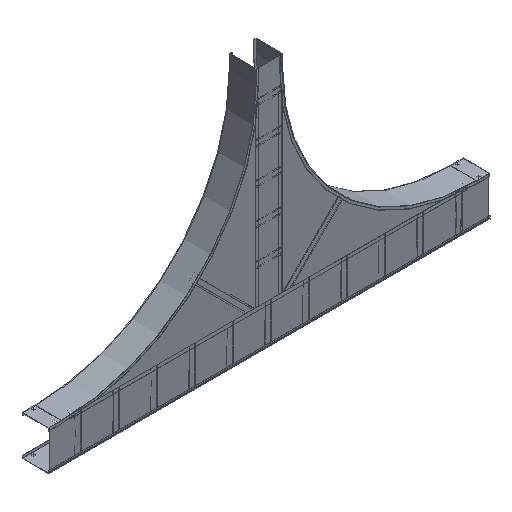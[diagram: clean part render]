
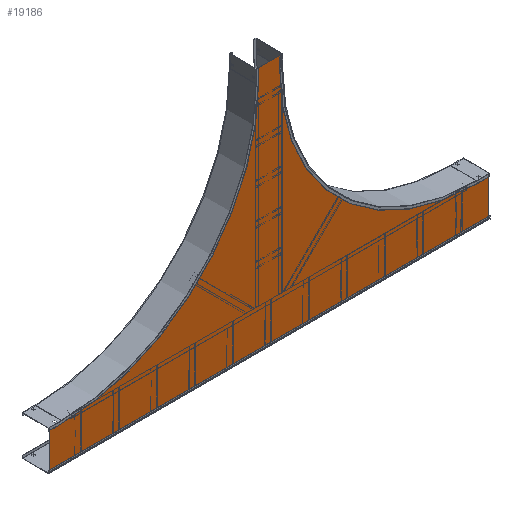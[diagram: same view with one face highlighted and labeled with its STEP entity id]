
A CAD part, isometric view. The second image highlights one B-rep face of the part: STEP entity #19186.
In plain terms, the highlighted planar face has unit normal (0, -1, 0).
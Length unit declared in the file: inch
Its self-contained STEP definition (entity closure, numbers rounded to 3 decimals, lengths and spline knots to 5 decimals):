
#18995=DIRECTION('',(1.,0.,0.));
#18996=VECTOR('',#18995,5.875);
#18997=CARTESIAN_POINT('',(-2.9375,0.,0.));
#18998=LINE('',#18997,#18996);
#18999=DIRECTION('',(0.,0.,-1.));
#19000=VECTOR('',#18999,2.875);
#19001=CARTESIAN_POINT('',(2.9375,0.,0.));
#19002=LINE('',#19001,#19000);
#19003=CARTESIAN_POINT('',(48.,0.,-2.875));
#19004=DIRECTION('',(0.,-1.,0.));
#19005=DIRECTION('',(-1.,0.,0.));
#19006=AXIS2_PLACEMENT_3D('',#19003,#19004,#19005);
#19008=DIRECTION('',(1.,0.,0.));
#19009=VECTOR('',#19008,2.875);
#19010=CARTESIAN_POINT('',(48.,0.,-47.9375));
#19011=LINE('',#19010,#19009);
#19012=DIRECTION('',(0.,0.,-1.));
#19013=VECTOR('',#19012,8.875);
#19014=CARTESIAN_POINT('',(50.875,0.,-47.9375));
#19015=LINE('',#19014,#19013);
#19016=DIRECTION('',(-1.,0.,0.));
#19017=VECTOR('',#19016,101.75);
#19018=CARTESIAN_POINT('',(50.875,0.,-56.8125));
#19019=LINE('',#19018,#19017);
#19020=DIRECTION('',(0.,0.,1.));
#19021=VECTOR('',#19020,8.875);
#19022=CARTESIAN_POINT('',(-50.875,0.,-56.8125));
#19023=LINE('',#19022,#19021);
#19024=DIRECTION('',(1.,0.,0.));
#19025=VECTOR('',#19024,2.875);
#19026=CARTESIAN_POINT('',(-50.875,0.,-47.9375));
#19027=LINE('',#19026,#19025);
#19028=CARTESIAN_POINT('',(-48.,0.,-2.875));
#19029=DIRECTION('',(0.,-1.,0.));
#19030=DIRECTION('',(0.,0.,-1.));
#19031=AXIS2_PLACEMENT_3D('',#19028,#19029,#19030);
#19033=DIRECTION('',(0.,0.,1.));
#19034=VECTOR('',#19033,2.875);
#19035=CARTESIAN_POINT('',(-2.9375,0.,-2.875));
#19036=LINE('',#19035,#19034);
#19119=CARTESIAN_POINT('',(-2.9375,0.,0.));
#19120=CARTESIAN_POINT('',(2.9375,0.,0.));
#19121=VERTEX_POINT('',#19119);
#19122=VERTEX_POINT('',#19120);
#19123=CARTESIAN_POINT('',(2.9375,0.,-2.875));
#19124=VERTEX_POINT('',#19123);
#19125=CARTESIAN_POINT('',(48.,0.,-47.9375));
#19126=VERTEX_POINT('',#19125);
#19127=CARTESIAN_POINT('',(50.875,0.,-47.9375));
#19128=VERTEX_POINT('',#19127);
#19129=CARTESIAN_POINT('',(50.875,0.,-56.8125));
#19130=VERTEX_POINT('',#19129);
#19131=CARTESIAN_POINT('',(-50.875,0.,-56.8125));
#19132=VERTEX_POINT('',#19131);
#19133=CARTESIAN_POINT('',(-50.875,0.,-47.9375));
#19134=VERTEX_POINT('',#19133);
#19135=CARTESIAN_POINT('',(-48.,0.,-47.9375));
#19136=VERTEX_POINT('',#19135);
#19137=CARTESIAN_POINT('',(-2.9375,0.,-2.875));
#19138=VERTEX_POINT('',#19137);
#19159=CARTESIAN_POINT('',(0.,0.,0.));
#19160=DIRECTION('',(0.,1.,0.));
#19161=DIRECTION('',(1.,0.,0.));
#19162=AXIS2_PLACEMENT_3D('',#19159,#19160,#19161);
#19163=PLANE('',#19162);
#19165=ORIENTED_EDGE('',*,*,#19164,.T.);
#19167=ORIENTED_EDGE('',*,*,#19166,.T.);
#19169=ORIENTED_EDGE('',*,*,#19168,.T.);
#19171=ORIENTED_EDGE('',*,*,#19170,.T.);
#19173=ORIENTED_EDGE('',*,*,#19172,.T.);
#19175=ORIENTED_EDGE('',*,*,#19174,.T.);
#19177=ORIENTED_EDGE('',*,*,#19176,.T.);
#19179=ORIENTED_EDGE('',*,*,#19178,.T.);
#19181=ORIENTED_EDGE('',*,*,#19180,.T.);
#19183=ORIENTED_EDGE('',*,*,#19182,.T.);
#19184=EDGE_LOOP('',(#19165,#19167,#19169,#19171,#19173,#19175,#19177,#19179,
#19181,#19183));
#19185=FACE_OUTER_BOUND('',#19184,.F.);
#19186=ADVANCED_FACE('',(#19185),#19163,.F.);
#19007=CIRCLE('',#19006,45.0625);
#19032=CIRCLE('',#19031,45.0625);
#19164=EDGE_CURVE('',#19121,#19122,#18998,.T.);
#19166=EDGE_CURVE('',#19122,#19124,#19002,.T.);
#19168=EDGE_CURVE('',#19124,#19126,#19007,.T.);
#19170=EDGE_CURVE('',#19126,#19128,#19011,.T.);
#19172=EDGE_CURVE('',#19128,#19130,#19015,.T.);
#19174=EDGE_CURVE('',#19130,#19132,#19019,.T.);
#19176=EDGE_CURVE('',#19132,#19134,#19023,.T.);
#19178=EDGE_CURVE('',#19134,#19136,#19027,.T.);
#19180=EDGE_CURVE('',#19136,#19138,#19032,.T.);
#19182=EDGE_CURVE('',#19138,#19121,#19036,.T.);
